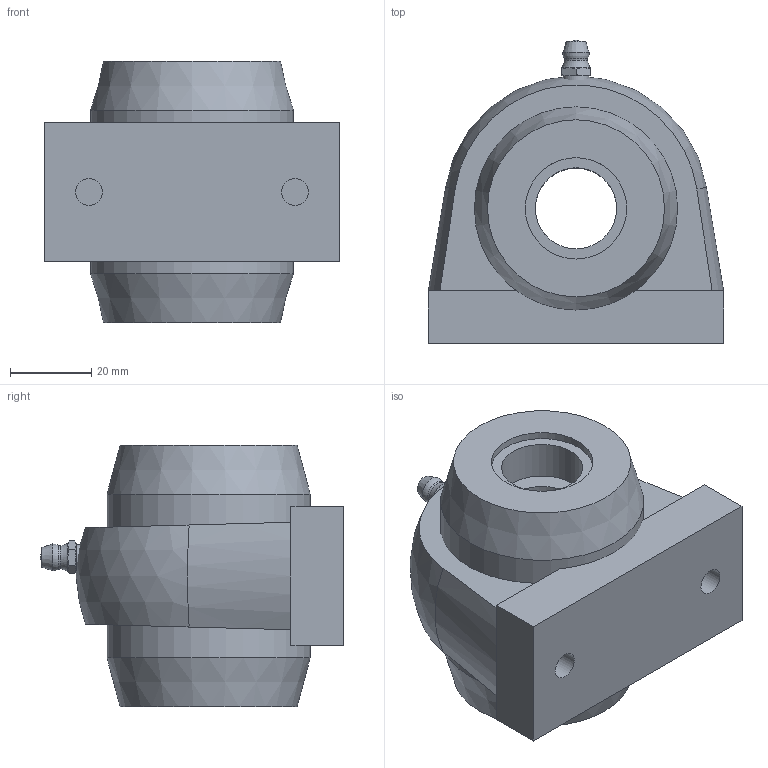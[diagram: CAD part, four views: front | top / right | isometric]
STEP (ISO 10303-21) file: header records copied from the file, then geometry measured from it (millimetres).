
FILE_DESCRIPTION(/* description */ (''),/* implementation_level */ '2;1');
FILE_NAME(/* name */ 'C:\Users\UGijyutu_200702\Desktop\77.プラスチックハウジング\MBTBL200V\MBTBL200VC\MBTBL204VC.stp',/* time_stamp */ '2024-05-28T11:51:29+09:00',/* author */ ('UGijyutu_200702'),/* organization */ (''),/* preprocessor_version */ 'ST-DEVELOPER v18',/* originating_system */ 'Autodesk Inventor 2020',/* authorisation */ '');
FILE_SCHEMA (('AUTOMOTIVE_DESIGN { 1 0 10303 214 3 1 1 }'));
Length unit declared in the file: millimetre
Products named in the file (5): MBTBL204V; TBL204; MB4 V; 1/4-28UNF-2A; 204C
Assembly tree (5 placements, depth 2):
  MBTBL204V
    TBL204
    MB4 V
    1/4-28UNF-2A
    204C  x2
Bounding box: 72.8 x 74.8 x 64.4 mm (x, y, z)
Volume: 113756.7 mm3; surface area: 45841.3 mm2
Topology: 5 solids, 5 shells, 109 faces, 263 edges, 181 vertices
Faces by surface type: plane 56, cylinder 27, cone 19, sphere 5, torus 2
Full cylindrical faces by diameter (mm): 3.2 x1, 5 x2, 5.359 x1, 6.35 x1, 6.647 x2, 20 x3, 25 x2, 29 x1, 35.6 x2, 46.5 x2, 49.8 x2, 50.1 x2
Entity records: 3365 total; most frequent: CARTESIAN_POINT 761, DIRECTION 525, ORIENTED_EDGE 474, EDGE_CURVE 237, AXIS2_PLACEMENT_3D 219, VERTEX_POINT 163, EDGE_LOOP 120, CIRCLE 102
